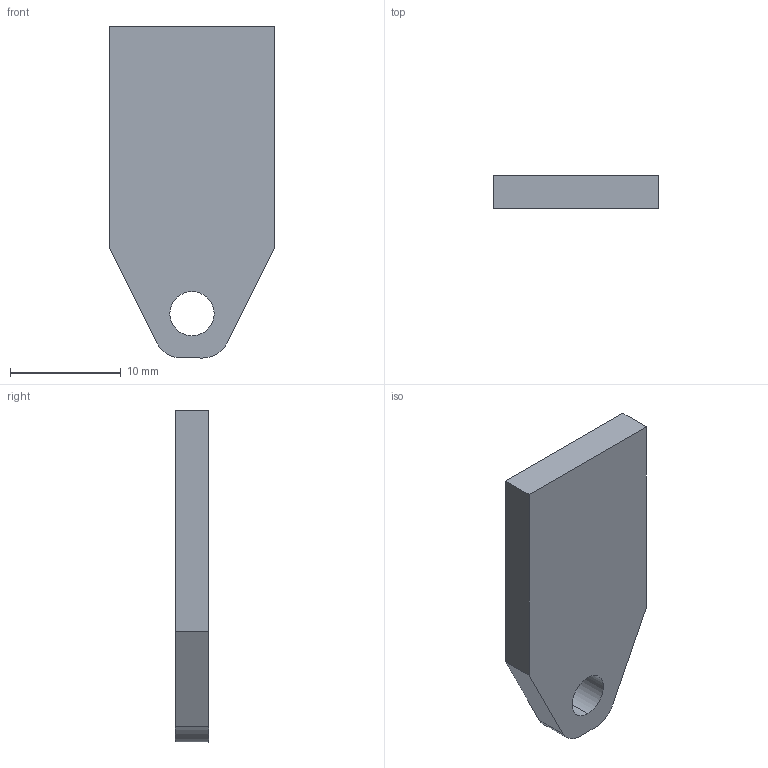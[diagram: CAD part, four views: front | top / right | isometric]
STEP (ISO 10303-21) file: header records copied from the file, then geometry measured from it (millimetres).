
FILE_DESCRIPTION (( 'STEP AP214' ), '1' );
FILE_NAME ('BowHolder.STEP', '2026-04-26T08:16:46', ( '' ), ( '' ), 'SwSTEP 2.0', 'SolidWorks 2010', '' );
FILE_SCHEMA (( 'AUTOMOTIVE_DESIGN' ));
Length unit declared in the file: millimetre
Products named in the file (1): BowHolder
Bounding box: 15 x 3 x 30 mm (x, y, z)
Volume: 1159.9 mm3; surface area: 1056.1 mm2
Topology: 1 solids, 1 shells, 12 faces, 30 edges, 20 vertices
Faces by surface type: plane 8, cylinder 4
Entity records: 400 total; most frequent: DIRECTION 64, CARTESIAN_POINT 63, ORIENTED_EDGE 60, EDGE_CURVE 30, LINE 22, VECTOR 22, AXIS2_PLACEMENT_3D 21, VERTEX_POINT 20
